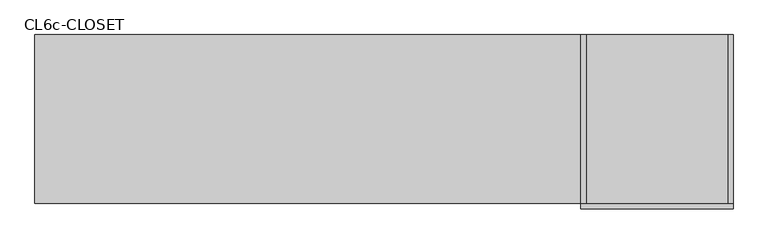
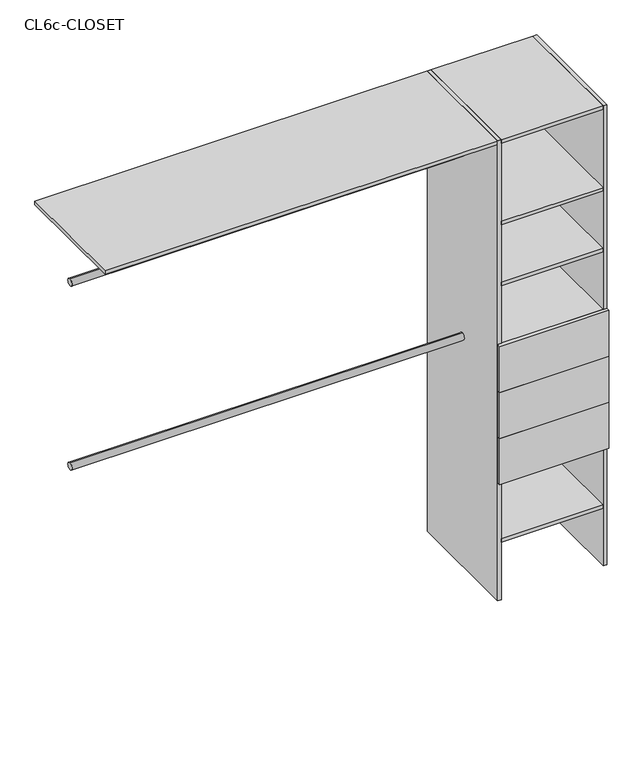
"""IFC4 building model written with IfcOpenShell, lengths in millimetres: furniture geometry, Closet 1estantes-1tubos_sin laterales : CL6c-CLOSET."""

from ifc_helpers import new_model, si_unit, point, frame, frame_2d, origin, origin_with_axes, place, context, project, spatial, polyline, circle_curve, trimmed, segment, composite_curve, outline, extrude, source, transform, mapped, element, save


def cl6c_closet_d8154fa9(model_context):
    return source(origin(), model_context, "Body", "SweptSolid", [
        extrude(outline(polyline([(225.0, 100.0), (210.0, 100.0), (210.0, 600.0), (225.0, 600.0), (225.0, 100.0)])), origin_with_axes(), (0.0, 0.0, 1.0), 2000.0),
        extrude(outline(polyline([(-210.0, 100.0), (-225.0, 100.0), (-225.0, 600.0), (-210.0, 600.0), (-210.0, 100.0)])), origin_with_axes(), (0.0, 0.0, 1.0), 2000.0),
        extrude(outline(polyline([(225.0, 100.0), (225.0, 85.0), (-225.0, 85.0), (-225.0, 100.0), (225.0, 100.0)])), frame((0.0, 0.0, 915.0), z_axis=(0.0, 0.0, 1.0), x_axis=(1.0, 0.0, 0.0)), (0.0, 0.0, 1.0), 200.0),
        extrude(outline(polyline([(225.0, 100.0), (225.0, 85.0), (-225.0, 85.0), (-225.0, 100.0), (225.0, 100.0)])), frame((0.0, 0.0, 715.0), z_axis=(0.0, 0.0, 1.0), x_axis=(1.0, 0.0, 0.0)), (0.0, 0.0, 1.0), 200.0),
        extrude(outline(polyline([(225.0, 100.0), (225.0, 85.0), (-225.0, 85.0), (-225.0, 100.0), (225.0, 100.0)])), frame((0.0, 0.0, 515.0), z_axis=(0.0, 0.0, 1.0), x_axis=(1.0, 0.0, 0.0)), (0.0, 0.0, 1.0), 200.0),
        extrude(outline(polyline([(210.0, 100.0), (-210.0, 100.0), (-210.0, 600.0), (210.0, 600.0), (210.0, 100.0)])), frame((0.0, 0.0, 1100.0), z_axis=(0.0, 0.0, 1.0), x_axis=(1.0, 0.0, 0.0)), (0.0, 0.0, 1.0), 15.0),
        extrude(outline(composite_curve([segment(trimmed(circle_curve(frame_2d((350.0, 1000.0)), 15.0), [point((350.0, 1015.0))], [point((350.0, 985.0))], False, "CARTESIAN"), True, "CONTINUOUS"), segment(trimmed(circle_curve(frame_2d((350.0, 1000.0)), 15.0), [point((350.0, 985.0))], [point((350.0, 1015.0))], False, "CARTESIAN"), True, "CONTINUOUS")], self_intersect=False)), frame((-1840.0, 0.0, 0.0), z_axis=(1.0, 0.0, 0.0), x_axis=(0.0, 1.0, 0.0)), (0.0, 0.0, 1.0), 1615.0),
        extrude(outline(composite_curve([segment(trimmed(circle_curve(frame_2d((350.0, 1800.0)), 15.0), [point((350.0, 1815.0))], [point((350.0, 1785.0))], False, "CARTESIAN"), True, "CONTINUOUS"), segment(trimmed(circle_curve(frame_2d((350.0, 1800.0)), 15.0), [point((350.0, 1785.0))], [point((350.0, 1815.0))], False, "CARTESIAN"), True, "CONTINUOUS")], self_intersect=False)), frame((-1840.0, 0.0, 0.0), z_axis=(1.0, 0.0, 0.0), x_axis=(0.0, 1.0, 0.0)), (0.0, 0.0, 1.0), 1615.0),
        extrude(outline(polyline([(210.0, 100.0), (-210.0, 100.0), (-210.0, 600.0), (210.0, 600.0), (210.0, 100.0)])), frame((0.0, 0.0, 250.0), z_axis=(0.0, 0.0, 1.0), x_axis=(1.0, 0.0, 0.0)), (0.0, 0.0, 1.0), 15.0),
        extrude(outline(polyline([(210.0, 100.0), (-210.0, 100.0), (-210.0, 600.0), (210.0, 600.0), (210.0, 100.0)])), frame((0.0, 0.0, 515.0), z_axis=(0.0, 0.0, 1.0), x_axis=(1.0, 0.0, 0.0)), (0.0, 0.0, 1.0), 15.0),
        extrude(outline(polyline([(210.0, 100.0), (-210.0, 100.0), (-210.0, 600.0), (210.0, 600.0), (210.0, 100.0)])), frame((0.0, 0.0, 1365.0), z_axis=(0.0, 0.0, 1.0), x_axis=(1.0, 0.0, 0.0)), (0.0, 0.0, 1.0), 15.0),
        extrude(outline(polyline([(210.0, 100.0), (-210.0, 100.0), (-210.0, 600.0), (210.0, 600.0), (210.0, 100.0)])), frame((0.0, 0.0, 1630.0), z_axis=(0.0, 0.0, 1.0), x_axis=(1.0, 0.0, 0.0)), (0.0, 0.0, 1.0), 15.0),
        extrude(outline(polyline([(-210.0, 100.0), (-1840.0, 100.0), (-1840.0, 600.0), (-210.0, 600.0), (-210.0, 100.0)])), frame((0.0, 0.0, 1985.0), z_axis=(0.0, 0.0, 1.0), x_axis=(1.0, 0.0, 0.0)), (0.0, 0.0, 1.0), 15.0),
        extrude(outline(polyline([(210.0, 100.0), (-210.0, 100.0), (-210.0, 600.0), (210.0, 600.0), (210.0, 100.0)])), frame((0.0, 0.0, 1985.0), z_axis=(0.0, 0.0, 1.0), x_axis=(1.0, 0.0, 0.0)), (0.0, 0.0, 1.0), 15.0),
    ])


if __name__ == "__main__":
    model = new_model("IFC4")
    model_context = context("Model", 3, world=origin())
    ifc_project = project(units=[si_unit("LENGTHUNIT", "METRE", prefix="MILLI")], contexts=[model_context])
    site = spatial("IfcSite", under=ifc_project)
    building = spatial("IfcBuilding", under=site)
    placement = place(None, origin())
    cl6c_closet_shape = cl6c_closet_d8154fa9(model_context)
    element("IfcFurniture", 1, ObjectType="Closet 1estantes-1tubos_sin laterales : CL6c-CLOSET", at=placement, inside=building, context=model_context, shape_type="MappedRepresentation", body=[
        mapped(cl6c_closet_shape, transform((0.0, 0.0, 0.0), x_axis=(1.0, 0.0, 0.0), y_axis=(0.0, 1.0, 0.0), z_axis=(0.0, 0.0, 1.0))),
    ])
    save(model, "model.ifc")
